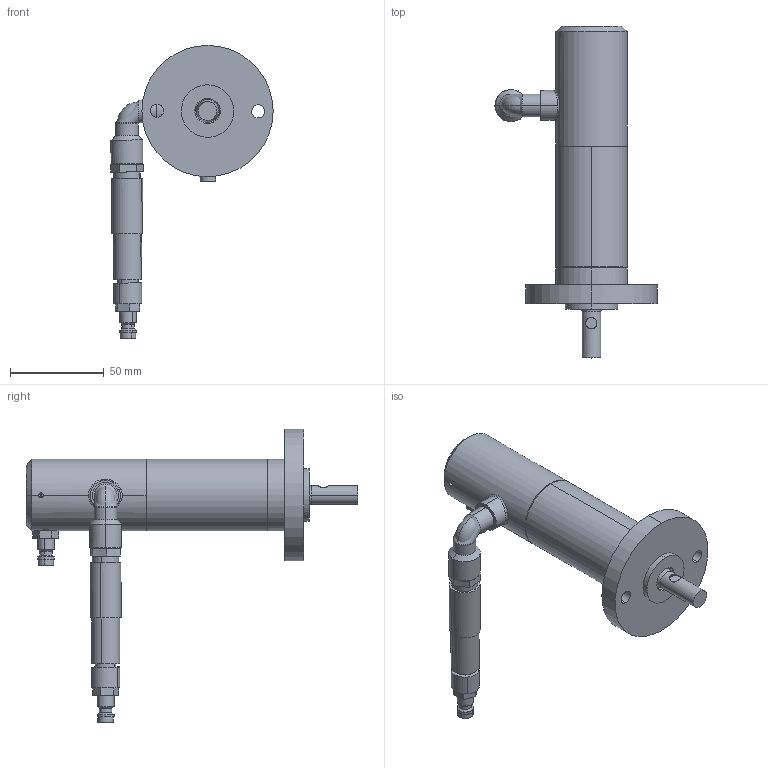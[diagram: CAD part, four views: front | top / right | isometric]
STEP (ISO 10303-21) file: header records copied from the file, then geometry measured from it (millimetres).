
FILE_DESCRIPTION (( 'STEP AP214' ), '1' );
FILE_NAME ('PMR11GA.STEP', '2019-03-19T11:51:10', ( '' ), ( '' ), 'SwSTEP 2.0', 'SolidWorks 2018', '' );
FILE_SCHEMA (( 'AUTOMOTIVE_DESIGN' ));
Length unit declared in the file: millimetre
Products named in the file (12): Kopie von Motorblock PLR 11^PMR11GA; PMR11GA; Flansch Serie PMR; Rändelschraube GA; Schnellkupplung; Ventil; Rändelschraube; Winkel; Kopie von Distanzring PLR 11^PMR11GA; Kopie von Deckel PLR 11^PMR11GA; Kopie von Stator PLR 11^PMR11GA; Kopie von Rotor PLR 11^PMR11GA
Assembly tree (12 placements, depth 3):
  PMR11GA
    Kopie von Motorblock PLR 11^PMR11GA
    Kopie von Rotor PLR 11^PMR11GA
    Kopie von Stator PLR 11^PMR11GA
    Kopie von Deckel PLR 11^PMR11GA
    Kopie von Distanzring PLR 11^PMR11GA
    Winkel
    Rändelschraube GA
      Rändelschraube
      Ventil
      Schnellkupplung
    Schnellkupplung
    Flansch Serie PMR
Bounding box: 86.58 x 177 x 156.33 mm (x, y, z)
Volume: 202958.2 mm3; surface area: 75473.9 mm2
Topology: 11 solids, 11 shells, 271 faces, 568 edges, 358 vertices
Faces by surface type: cylinder 140, plane 87, cone 32, torus 10, bspline 2
Entity records: 7916 total; most frequent: CARTESIAN_POINT 1850, DIRECTION 1258, ORIENTED_EDGE 992, AXIS2_PLACEMENT_3D 534, EDGE_CURVE 496, VERTEX_POINT 316, EDGE_LOOP 296, CIRCLE 280
